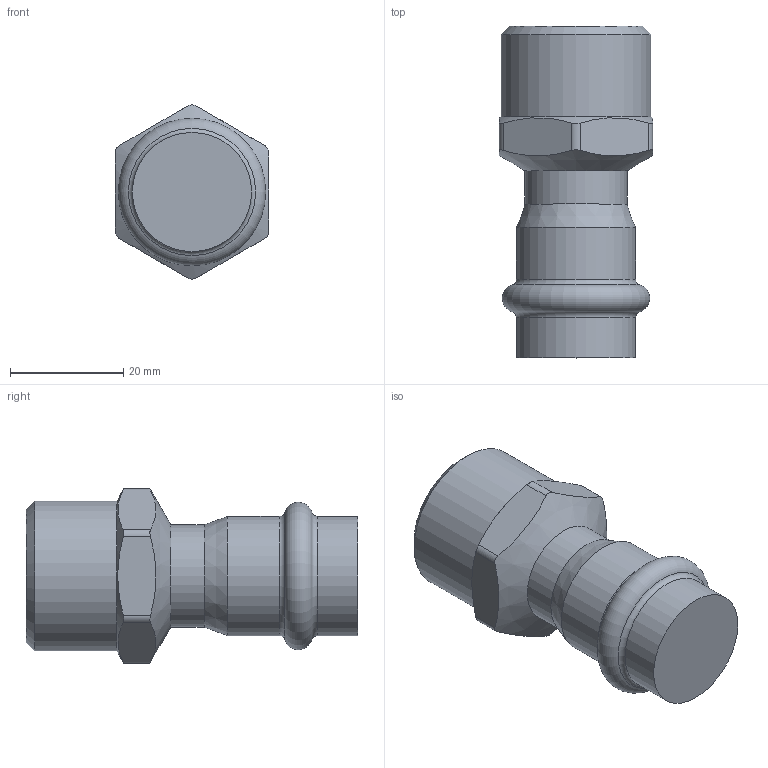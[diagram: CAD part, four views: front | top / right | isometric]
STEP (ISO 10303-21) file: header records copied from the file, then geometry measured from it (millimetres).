
FILE_DESCRIPTION(('STEP AP203'), '1');
FILE_NAME('VTi.901.I.001805', '', ('UNSPECIFIED'), ('UNSPECIFIED'), 'C3D Converter', 'C3D Toolkit', '');
FILE_SCHEMA(('CONFIG_CONTROL_DESIGN'));
Length unit declared in the file: millimetre
Bounding box: 27 x 58.5 x 30.71 mm (x, y, z)
Volume: 25468.5 mm3; surface area: 5573.5 mm2
Topology: 1 solids, 1 shells, 25 faces, 60 edges, 37 vertices
Faces by surface type: cylinder 10, plane 8, cone 4, torus 3
Full cylindrical faces by diameter (mm): 18 x1, 21 x2, 26.441 x1
Entity records: 1503 total; most frequent: CARTESIAN_POINT 969, ORIENTED_EDGE 98, DIRECTION 86, EDGE_CURVE 49, AXIS2_PLACEMENT_3D 37, VERTEX_POINT 37, EDGE_LOOP 36, B_SPLINE_CURVE_WITH_KNOTS 26
